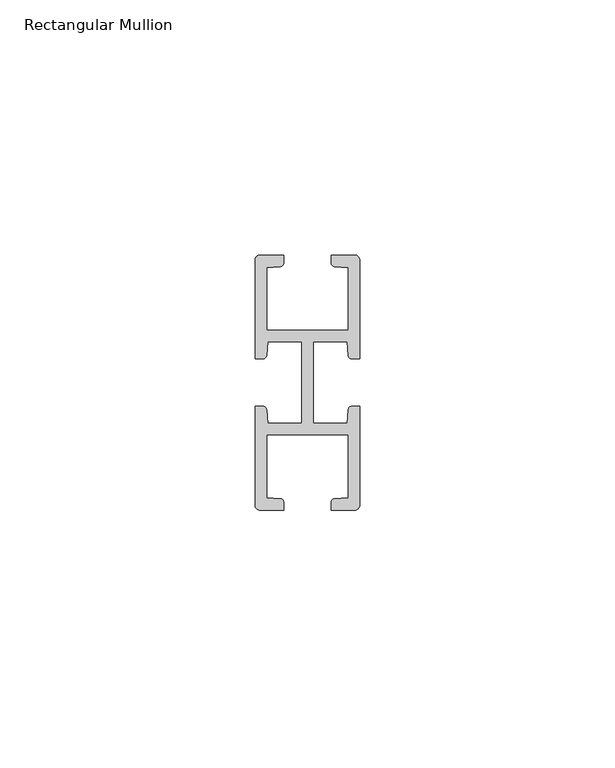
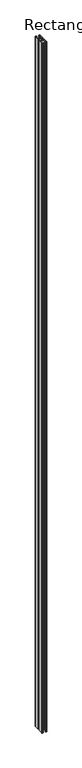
"""IFC4 building model written with IfcOpenShell, lengths in millimetres: member geometry, Rectangular Mullion : RSen_21_CWM_support profile - 21x50 Multi_duco projects."""

from ifc_helpers import new_model, si_unit, frame, origin, place, context, project, spatial, circle_curve, source, transform, mapped, element, save
from ifc_brep_helpers import plane_surface, cylinder_surface, advanced_brep


def rectangular_mullion_19c265a5(model_context):
    return source(origin(), model_context, "Body", "AdvancedBrep", [
        advanced_brep(
        [(10.25, -28.65, 0.0), (8.7027606, -28.65, 0.0), (8.0044657, -29.3011705, 0.0), (7.8157452, -32.0, 0.0), (1.125, -32.0, 0.0), (1.125, -16.0, 0.0), (7.8157452, -16.0, 0.0), (8.0044657, -18.6988295, 0.0), (8.7027606, -19.35, 0.0), (10.25, -19.35, 0.0), (10.25, 0.0, 0.0), (9.25, 1.0, 0.0), (4.65, 1.0, 0.0), (4.65, -0.5472394, 0.0), (5.3011705, -1.2455343, 0.0), (8.0, -1.4387205, 0.0), (8.0, -13.75, 0.0), (-8.0, -13.75, 0.0), (-8.0, -1.4387205, 0.0), (-5.3008597, -1.2499783, 0.0), (-4.65, -0.5472394, 0.0), (-4.65, 1.0, 0.0), (-9.25, 1.0, 0.0), (-10.25, 0.0, 0.0), (-10.25, -19.35, 0.0), (-8.7027606, -19.35, 0.0), (-8.0044657, -18.6988295, 0.0), (-7.8157452, -16.0, 0.0), (-1.125, -16.0, 0.0), (-1.125, -32.0, 0.0), (-7.8157452, -32.0, 0.0), (-8.0044657, -29.3011705, 0.0), (-8.7027606, -28.65, 0.0), (-10.25, -28.65, 0.0), (-10.25, -48.0, 0.0), (-9.25, -49.0, 0.0), (-4.65, -49.0, 0.0), (-4.65, -47.4527606, 0.0), (-5.3011705, -46.7544657, 0.0), (-8.0, -46.5612795, 0.0), (-8.0, -34.25, 0.0), (8.0, -34.25, 0.0), (8.0, -46.5612795, 0.0), (5.3011705, -46.75, 0.0), (4.65, -47.4527606, 0.0), (4.65, -49.0, 0.0), (9.25, -49.0, 0.0), (10.25, -48.0, 0.0), (10.25, -28.65, -3000.0), (10.25, -48.0, -3000.0), (9.25, -49.0, -3000.0), (4.65, -49.0, -3000.0), (4.65, -47.4527606, -3000.0), (5.3011705, -46.7544657, -3000.0), (8.0, -46.5612795, -3000.0), (8.0, -34.25, -3000.0), (-8.0, -34.25, -3000.0), (-8.0, -46.5612795, -3000.0), (-5.3011705, -46.75, -3000.0), (-4.65, -47.4527606, -3000.0), (-4.65, -49.0, -3000.0), (-9.25, -49.0, -3000.0), (-10.25, -48.0, -3000.0), (-10.25, -28.65, -3000.0), (-8.7027606, -28.65, -3000.0), (-8.0044657, -29.3011705, -3000.0), (-7.8157452, -32.0, -3000.0), (-1.125, -32.0, -3000.0), (-1.125, -16.0, -3000.0), (-7.8157452, -16.0, -3000.0), (-8.0044657, -18.6988295, -3000.0), (-8.7027606, -19.35, -3000.0), (-10.25, -19.35, -3000.0), (-10.25, 0.0, -3000.0), (-9.25, 1.0, -3000.0), (-4.65, 1.0, -3000.0), (-4.65, -0.5472394, -3000.0), (-5.3011705, -1.2455343, -3000.0), (-8.0, -1.4387205, -3000.0), (-8.0, -13.75, -3000.0), (8.0, -13.75, -3000.0), (8.0, -1.4387205, -3000.0), (5.3008597, -1.2499783, -3000.0), (4.65, -0.5472394, -3000.0), (4.65, 1.0, -3000.0), (9.25, 1.0, -3000.0), (10.25, 0.0, -3000.0), (10.25, -19.35, -3000.0), (8.7027606, -19.35, -3000.0), (8.0044657, -18.6988295, -3000.0), (7.8157452, -16.0, -3000.0), (1.125, -16.0, -3000.0), (1.125, -32.0, -3000.0), (7.8157452, -32.0, -3000.0), (8.0044657, -29.3011705, -3000.0), (8.7027606, -28.65, -3000.0)],
        [
            (0, 1),
            (1, 2, circle_curve(frame((8.7027606, -29.35, 0.0), z_axis=(0.0, 0.0, 1.0), x_axis=(1.0, 0.0, 0.0)), 0.7)),
            (2, 3),
            (3, 4),
            (4, 5),
            (5, 6),
            (6, 7),
            (7, 8, circle_curve(frame((8.7027606, -18.65, 0.0), z_axis=(0.0, 0.0, 1.0), x_axis=(1.0, 0.0, 0.0)), 0.7)),
            (8, 9),
            (9, 10),
            (10, 11, circle_curve(frame((9.25, 0.0, 0.0), z_axis=(0.0, 0.0, 1.0), x_axis=(1.0, 0.0, 0.0)), 1.0)),
            (11, 12),
            (12, 13),
            (13, 14, circle_curve(frame((5.35, -0.5472394, 0.0), z_axis=(0.0, 0.0, 1.0), x_axis=(1.0, 0.0, 0.0)), 0.7)),
            (14, 15),
            (15, 16),
            (16, 17),
            (17, 18),
            (18, 19),
            (19, 20, circle_curve(frame((-5.35, -0.5472394, 0.0), z_axis=(0.0, 0.0, 1.0), x_axis=(1.0, 0.0, 0.0)), 0.7)),
            (20, 21),
            (21, 22),
            (22, 23, circle_curve(frame((-9.25, 0.0, 0.0), z_axis=(0.0, 0.0, 1.0), x_axis=(1.0, 0.0, 0.0)), 1.0)),
            (23, 24),
            (24, 25),
            (25, 26, circle_curve(frame((-8.7027606, -18.65, 0.0), z_axis=(0.0, 0.0, 1.0), x_axis=(1.0, 0.0, 0.0)), 0.7)),
            (26, 27),
            (27, 28),
            (28, 29),
            (29, 30),
            (30, 31),
            (31, 32, circle_curve(frame((-8.7027606, -29.35, 0.0), z_axis=(0.0, 0.0, 1.0), x_axis=(1.0, 0.0, 0.0)), 0.7)),
            (32, 33),
            (33, 34),
            (34, 35, circle_curve(frame((-9.25, -48.0, 0.0), z_axis=(0.0, 0.0, 1.0), x_axis=(1.0, 0.0, 0.0)), 1.0)),
            (35, 36),
            (36, 37),
            (37, 38, circle_curve(frame((-5.35, -47.4527606, 0.0), z_axis=(0.0, 0.0, 1.0), x_axis=(1.0, 0.0, 0.0)), 0.7)),
            (38, 39),
            (39, 40),
            (40, 41),
            (41, 42),
            (42, 43),
            (43, 44, circle_curve(frame((5.35, -47.4527606, 0.0), z_axis=(0.0, 0.0, 1.0), x_axis=(1.0, 0.0, 0.0)), 0.7)),
            (44, 45),
            (45, 46),
            (46, 47, circle_curve(frame((9.25, -48.0, 0.0), z_axis=(0.0, 0.0, 1.0), x_axis=(1.0, 0.0, 0.0)), 1.0)),
            (47, 0),
            (48, 49),
            (49, 50, circle_curve(frame((9.25, -48.0, -3000.0), z_axis=(0.0, 0.0, -1.0), x_axis=(1.0, 0.0, 0.0)), 1.0)),
            (50, 51),
            (51, 52),
            (52, 53, circle_curve(frame((5.35, -47.4527606, -3000.0), z_axis=(0.0, 0.0, -1.0), x_axis=(1.0, 0.0, 0.0)), 0.7)),
            (53, 54),
            (54, 55),
            (55, 56),
            (56, 57),
            (57, 58),
            (58, 59, circle_curve(frame((-5.35, -47.4527606, -3000.0), z_axis=(0.0, 0.0, -1.0), x_axis=(1.0, 0.0, 0.0)), 0.7)),
            (59, 60),
            (60, 61),
            (61, 62, circle_curve(frame((-9.25, -48.0, -3000.0), z_axis=(0.0, 0.0, -1.0), x_axis=(1.0, 0.0, 0.0)), 1.0)),
            (62, 63),
            (63, 64),
            (64, 65, circle_curve(frame((-8.7027606, -29.35, -3000.0), z_axis=(0.0, 0.0, -1.0), x_axis=(1.0, 0.0, 0.0)), 0.7)),
            (65, 66),
            (66, 67),
            (67, 68),
            (68, 69),
            (69, 70),
            (70, 71, circle_curve(frame((-8.7027606, -18.65, -3000.0), z_axis=(0.0, 0.0, -1.0), x_axis=(1.0, 0.0, 0.0)), 0.7)),
            (71, 72),
            (72, 73),
            (73, 74, circle_curve(frame((-9.25, 0.0, -3000.0), z_axis=(0.0, 0.0, -1.0), x_axis=(1.0, 0.0, 0.0)), 1.0)),
            (74, 75),
            (75, 76),
            (76, 77, circle_curve(frame((-5.35, -0.5472394, -3000.0), z_axis=(0.0, 0.0, -1.0), x_axis=(1.0, 0.0, 0.0)), 0.7)),
            (77, 78),
            (78, 79),
            (79, 80),
            (80, 81),
            (81, 82),
            (82, 83, circle_curve(frame((5.35, -0.5472394, -3000.0), z_axis=(0.0, 0.0, -1.0), x_axis=(1.0, 0.0, 0.0)), 0.7)),
            (83, 84),
            (84, 85),
            (85, 86, circle_curve(frame((9.25, 0.0, -3000.0), z_axis=(0.0, 0.0, -1.0), x_axis=(1.0, 0.0, 0.0)), 1.0)),
            (86, 87),
            (87, 88),
            (88, 89, circle_curve(frame((8.7027606, -18.65, -3000.0), z_axis=(0.0, 0.0, -1.0), x_axis=(1.0, 0.0, 0.0)), 0.7)),
            (89, 90),
            (90, 91),
            (91, 92),
            (92, 93),
            (93, 94),
            (94, 95, circle_curve(frame((8.7027606, -29.35, -3000.0), z_axis=(0.0, 0.0, -1.0), x_axis=(1.0, 0.0, 0.0)), 0.7)),
            (95, 48),
            (33, 63),
            (62, 34),
            (47, 49),
            (48, 0),
            (95, 1),
            (94, 2),
            (93, 3),
            (92, 4),
            (91, 5),
            (90, 6),
            (89, 7),
            (88, 8),
            (87, 9),
            (86, 10),
            (85, 11),
            (84, 12),
            (83, 13),
            (82, 14),
            (81, 15),
            (80, 16),
            (79, 17),
            (78, 18),
            (77, 19),
            (76, 20),
            (75, 21),
            (74, 22),
            (73, 23),
            (72, 24),
            (71, 25),
            (70, 26),
            (69, 27),
            (68, 28),
            (67, 29),
            (66, 30),
            (65, 31),
            (64, 32),
            (61, 35),
            (60, 36),
            (59, 37),
            (58, 38),
            (57, 39),
            (56, 40),
            (55, 41),
            (54, 42),
            (53, 43),
            (52, 44),
            (51, 45),
            (50, 46),
        ],
        [
            plane_surface(frame((0.0, -49.8654439, 0.0), z_axis=(0.0, 0.0, 1.0), x_axis=(-1.0, 0.0, 0.0))),
            plane_surface(frame((0.0, -49.8654439, -3000.0), z_axis=(0.0, 0.0, -1.0), x_axis=(-1.0, 0.0, 0.0))),
            plane_surface(frame((-10.25, -28.65, 0.0), z_axis=(-1.0, 0.0, 0.0), x_axis=(0.0, 0.0, -1.0))),
            plane_surface(frame((10.25, -48.0, 0.0), z_axis=(1.0, 0.0, 0.0), x_axis=(0.0, 0.0, -1.0))),
            plane_surface(frame((10.25, -28.65, 0.0), z_axis=(0.0, 1.0, 0.0), x_axis=(0.0, 0.0, -1.0))),
            cylinder_surface(frame((8.7027606, -29.35, 0.0), z_axis=(0.0, 0.0, 1.0), x_axis=(1.0, 0.0, 0.0)), 0.7),
            plane_surface(frame((8.0044657, -29.3011705, 0.0), z_axis=(-0.9975640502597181, 0.06975647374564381, 0.0), x_axis=(0.0, 0.0, -1.0))),
            plane_surface(frame((7.8157452, -32.0, 0.0), z_axis=(0.0, 1.0, 0.0), x_axis=(0.0, 0.0, -1.0))),
            plane_surface(frame((1.125, -32.0, 0.0), z_axis=(1.0, 0.0, 0.0), x_axis=(0.0, 0.0, -1.0))),
            plane_surface(frame((1.125, -16.0, 0.0), z_axis=(0.0, -1.0, 0.0), x_axis=(0.0, 0.0, -1.0))),
            plane_surface(frame((7.8157452, -16.0, 0.0), z_axis=(-0.9975640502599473, -0.0697564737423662, 0.0), x_axis=(0.0, 0.0, -1.0))),
            cylinder_surface(frame((8.7027606, -18.65, 0.0), z_axis=(0.0, 0.0, 1.0), x_axis=(1.0, 0.0, 0.0)), 0.7),
            plane_surface(frame((8.7027606, -19.35, 0.0), z_axis=(0.0, -1.0, 0.0), x_axis=(0.0, 0.0, -1.0))),
            plane_surface(frame((10.25, -19.35, 0.0), z_axis=(1.0, 0.0, 0.0), x_axis=(0.0, 0.0, -1.0))),
            cylinder_surface(frame((9.25, 0.0, 0.0), z_axis=(0.0, 0.0, 1.0), x_axis=(1.0, 0.0, 0.0)), 1.0),
            plane_surface(frame((9.25, 1.0, 0.0), z_axis=(0.0, 1.0, 0.0), x_axis=(0.0, 0.0, -1.0))),
            plane_surface(frame((4.65, 1.0, 0.0), z_axis=(-1.0, 0.0, 0.0), x_axis=(0.0, 0.0, -1.0))),
            cylinder_surface(frame((5.35, -0.5472394, 0.0), z_axis=(0.0, 0.0, 1.0), x_axis=(1.0, 0.0, 0.0)), 0.7),
            plane_surface(frame((5.3008597, -1.2499783, 0.0), z_axis=(-0.0697564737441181, -0.9975640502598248, 0.0), x_axis=(0.0, 0.0, -1.0))),
            plane_surface(frame((8.0, -1.4387205, 0.0), z_axis=(-1.0, 0.0, 0.0), x_axis=(0.0, 0.0, -1.0))),
            plane_surface(frame((8.0, -13.75, 0.0), z_axis=(0.0, 1.0, 0.0), x_axis=(0.0, 0.0, -1.0))),
            plane_surface(frame((-8.0, -13.75, 0.0), z_axis=(1.0, 0.0, 0.0), x_axis=(0.0, 0.0, -1.0))),
            plane_surface(frame((-8.0, -1.4387205, 0.0), z_axis=(0.06975647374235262, -0.9975640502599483, 0.0), x_axis=(0.0, 0.0, -1.0))),
            cylinder_surface(frame((-5.35, -0.5472394, 0.0), z_axis=(0.0, 0.0, 1.0), x_axis=(1.0, 0.0, 0.0)), 0.7),
            plane_surface(frame((-4.65, -0.5472394, 0.0), z_axis=(1.0, 0.0, 0.0), x_axis=(0.0, 0.0, -1.0))),
            plane_surface(frame((-4.65, 1.0, 0.0), z_axis=(0.0, 1.0, 0.0), x_axis=(0.0, 0.0, -1.0))),
            cylinder_surface(frame((-9.25, 0.0, 0.0), z_axis=(0.0, 0.0, 1.0), x_axis=(1.0, 0.0, 0.0)), 1.0),
            plane_surface(frame((-10.25, 0.0, 0.0), z_axis=(-1.0, 0.0, 0.0), x_axis=(0.0, 0.0, -1.0))),
            plane_surface(frame((-10.25, -19.35, 0.0), z_axis=(0.0, -1.0, 0.0), x_axis=(0.0, 0.0, -1.0))),
            cylinder_surface(frame((-8.7027606, -18.65, 0.0), z_axis=(0.0, 0.0, 1.0), x_axis=(1.0, 0.0, 0.0)), 0.7),
            plane_surface(frame((-8.0044657, -18.6988295, 0.0), z_axis=(0.9975640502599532, -0.0697564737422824, 0.0), x_axis=(0.0, 0.0, -1.0))),
            plane_surface(frame((-7.8157452, -16.0, 0.0), z_axis=(0.0, -1.0, 0.0), x_axis=(0.0, 0.0, -1.0))),
            plane_surface(frame((-1.125, -16.0, 0.0), z_axis=(-1.0, 0.0, 0.0), x_axis=(0.0, 0.0, -1.0))),
            plane_surface(frame((-1.125, -32.0, 0.0), z_axis=(0.0, 1.0, 0.0), x_axis=(0.0, 0.0, -1.0))),
            plane_surface(frame((-7.8157452, -32.0, 0.0), z_axis=(0.9975640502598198, 0.06975647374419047, 0.0), x_axis=(0.0, 0.0, -1.0))),
            cylinder_surface(frame((-8.7027606, -29.35, 0.0), z_axis=(0.0, 0.0, 1.0), x_axis=(1.0, 0.0, 0.0)), 0.7),
            plane_surface(frame((-8.7027606, -28.65, 0.0), z_axis=(0.0, 1.0, 0.0), x_axis=(0.0, 0.0, -1.0))),
            cylinder_surface(frame((-9.25, -48.0, 0.0), z_axis=(0.0, 0.0, 1.0), x_axis=(1.0, 0.0, 0.0)), 1.0),
            plane_surface(frame((-9.25, -49.0, 0.0), z_axis=(0.0, -1.0, 0.0), x_axis=(0.0, 0.0, -1.0))),
            plane_surface(frame((-4.65, -49.0, 0.0), z_axis=(1.0, 0.0, 0.0), x_axis=(0.0, 0.0, -1.0))),
            cylinder_surface(frame((-5.35, -47.4527606, 0.0), z_axis=(0.0, 0.0, 1.0), x_axis=(1.0, 0.0, 0.0)), 0.7),
            plane_surface(frame((-5.3011705, -46.75, 0.0), z_axis=(0.06975647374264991, 0.9975640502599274, 0.0), x_axis=(0.0, 0.0, -1.0))),
            plane_surface(frame((-8.0, -46.5612795, 0.0), z_axis=(1.0, 0.0, 0.0), x_axis=(0.0, 0.0, -1.0))),
            plane_surface(frame((-8.0, -34.25, 0.0), z_axis=(0.0, -1.0, 0.0), x_axis=(0.0, 0.0, -1.0))),
            plane_surface(frame((8.0, -34.25, 0.0), z_axis=(-1.0, 0.0, 0.0), x_axis=(0.0, 0.0, -1.0))),
            plane_surface(frame((8.0, -46.5612795, 0.0), z_axis=(-0.06975647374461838, 0.9975640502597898, 0.0), x_axis=(0.0, 0.0, -1.0))),
            cylinder_surface(frame((5.35, -47.4527606, 0.0), z_axis=(0.0, 0.0, 1.0), x_axis=(1.0, 0.0, 0.0)), 0.7),
            plane_surface(frame((4.65, -47.4527606, 0.0), z_axis=(-1.0, 0.0, 0.0), x_axis=(0.0, 0.0, -1.0))),
            plane_surface(frame((4.65, -49.0, 0.0), z_axis=(0.0, -1.0, 0.0), x_axis=(0.0, 0.0, -1.0))),
            cylinder_surface(frame((9.25, -48.0, 0.0), z_axis=(0.0, 0.0, 1.0), x_axis=(1.0, 0.0, 0.0)), 1.0),
        ],
        [
            (0, [[1, 2, 3, 4, 5, 6, 7, 8, 9, 10, 11, 12, 13, 14, 15, 16, 17, 18, 19, 20, 21, 22, 23, 24, 25, 26, 27, 28, 29, 30, 31, 32, 33, 34, 35, 36, 37, 38, 39, 40, 41, 42, 43, 44, 45, 46, 47, 48]]),
            (1, [[49, 50, 51, 52, 53, 54, 55, 56, 57, 58, 59, 60, 61, 62, 63, 64, 65, 66, 67, 68, 69, 70, 71, 72, 73, 74, 75, 76, 77, 78, 79, 80, 81, 82, 83, 84, 85, 86, 87, 88, 89, 90, 91, 92, 93, 94, 95, 96]]),
            (2, [[-34, 97, -63, 98]]),
            (3, [[-48, 99, -49, 100]]),
            (4, [[-1, -100, -96, 101]]),
            (5, [[-2, -101, -95, 102]]),
            (6, [[-3, -102, -94, 103]]),
            (7, [[-4, -103, -93, 104]]),
            (8, [[-5, -104, -92, 105]]),
            (9, [[-6, -105, -91, 106]]),
            (10, [[-7, -106, -90, 107]]),
            (11, [[-8, -107, -89, 108]]),
            (12, [[-9, -108, -88, 109]]),
            (13, [[-10, -109, -87, 110]]),
            (14, [[-11, -110, -86, 111]]),
            (15, [[-12, -111, -85, 112]]),
            (16, [[-13, -112, -84, 113]]),
            (17, [[-14, -113, -83, 114]]),
            (18, [[-15, -114, -82, 115]]),
            (19, [[-16, -115, -81, 116]]),
            (20, [[-17, -116, -80, 117]]),
            (21, [[-18, -117, -79, 118]]),
            (22, [[-19, -118, -78, 119]]),
            (23, [[-20, -119, -77, 120]]),
            (24, [[-21, -120, -76, 121]]),
            (25, [[-22, -121, -75, 122]]),
            (26, [[-23, -122, -74, 123]]),
            (27, [[-24, -123, -73, 124]]),
            (28, [[-25, -124, -72, 125]]),
            (29, [[-26, -125, -71, 126]]),
            (30, [[-27, -126, -70, 127]]),
            (31, [[-28, -127, -69, 128]]),
            (32, [[-29, -128, -68, 129]]),
            (33, [[-30, -129, -67, 130]]),
            (34, [[-31, -130, -66, 131]]),
            (35, [[-32, -131, -65, 132]]),
            (36, [[-33, -132, -64, -97]]),
            (37, [[-35, -98, -62, 133]]),
            (38, [[-36, -133, -61, 134]]),
            (39, [[-37, -134, -60, 135]]),
            (40, [[-38, -135, -59, 136]]),
            (41, [[-39, -136, -58, 137]]),
            (42, [[-40, -137, -57, 138]]),
            (43, [[-41, -138, -56, 139]]),
            (44, [[-42, -139, -55, 140]]),
            (45, [[-43, -140, -54, 141]]),
            (46, [[-44, -141, -53, 142]]),
            (47, [[-45, -142, -52, 143]]),
            (48, [[-46, -143, -51, 144]]),
            (49, [[-47, -144, -50, -99]]),
        ],
    ),
    ])


if __name__ == "__main__":
    model = new_model("IFC4")
    model_context = context("Model", 3, world=origin())
    ifc_project = project(units=[si_unit("LENGTHUNIT", "METRE", prefix="MILLI")], contexts=[model_context])
    site = spatial("IfcSite", under=ifc_project)
    building = spatial("IfcBuilding", under=site)
    placement = place(None, origin())
    rectangular_mullion_shape = rectangular_mullion_19c265a5(model_context)
    element("IfcMember", 1, ObjectType="Rectangular Mullion : RSen_21_CWM_support profile - 21x50 Multi_duco projects", at=placement, inside=building, context=model_context, shape_type="MappedRepresentation", body=[
        mapped(rectangular_mullion_shape, transform((0.0, 0.0, 0.0), x_axis=(1.0, 0.0, 0.0), y_axis=(0.0, 1.0, 0.0), z_axis=(0.0, 0.0, 1.0))),
    ])
    save(model, "model.ifc")
